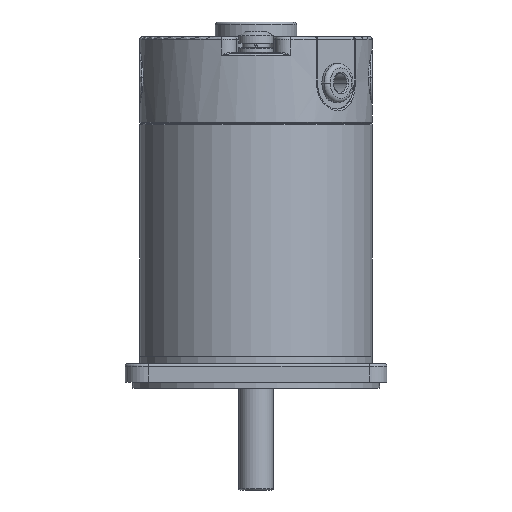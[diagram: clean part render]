
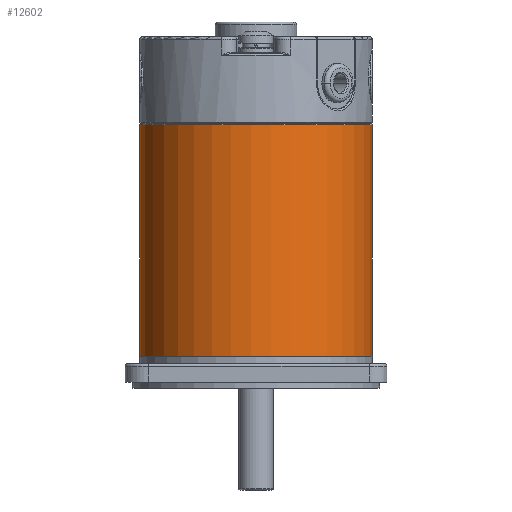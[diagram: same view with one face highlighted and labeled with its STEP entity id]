
A CAD part, left-side view. The second image highlights one B-rep face of the part: STEP entity #12602.
In plain terms, the highlighted cylindrical face has radius 40 mm (diameter 80 mm), a partial arc.
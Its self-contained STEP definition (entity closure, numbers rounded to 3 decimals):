
#2 = CARTESIAN_POINT ( 'NONE',  ( 0., 80., -40. ) ) ;
#185 = VERTEX_POINT ( 'NONE', #8980 ) ;
#459 = CARTESIAN_POINT ( 'NONE',  ( 0., 0., -40. ) ) ;
#631 = CARTESIAN_POINT ( 'NONE',  ( 0., 0.3, -40. ) ) ;
#710 = EDGE_LOOP ( 'NONE', ( #9061, #799, #4292, #3163, #8790 ) ) ;
#799 = ORIENTED_EDGE ( 'NONE', *, *, #3795, .T. ) ;
#1604 = DIRECTION ( 'NONE',  ( 0., 0., 1. ) ) ;
#1676 = CARTESIAN_POINT ( 'NONE',  ( 0., 0., 0. ) ) ;
#1763 = CARTESIAN_POINT ( 'NONE',  ( 0., 0.3, 0. ) ) ;
#1797 = DIRECTION ( 'NONE',  ( 0., 1., 0. ) ) ;
#1891 = AXIS2_PLACEMENT_3D ( 'NONE', #11796, #4557, #9640 ) ;
#2105 = EDGE_CURVE ( 'NONE', #12702, #4097, #8693, .T. ) ;
#2594 = EDGE_CURVE ( 'NONE', #12216, #185, #4710, .T. ) ;
#3163 = ORIENTED_EDGE ( 'NONE', *, *, #7484, .T. ) ;
#3598 = AXIS2_PLACEMENT_3D ( 'NONE', #11720, #5849, #7738 ) ;
#3795 = EDGE_CURVE ( 'NONE', #4714, #12702, #12560, .T. ) ;
#3946 = AXIS2_PLACEMENT_3D ( 'NONE', #1676, #1797, #1604 ) ;
#4097 = VERTEX_POINT ( 'NONE', #2 ) ;
#4105 = CARTESIAN_POINT ( 'NONE',  ( 0., 0.3, 40. ) ) ;
#4292 = ORIENTED_EDGE ( 'NONE', *, *, #2105, .T. ) ;
#4355 = AXIS2_PLACEMENT_3D ( 'NONE', #1763, #8764, #11753 ) ;
#4557 = DIRECTION ( 'NONE',  ( 0., -1., 0. ) ) ;
#4710 = LINE ( 'NONE', #11823, #8868 ) ;
#4714 = VERTEX_POINT ( 'NONE', #5253 ) ;
#5253 = CARTESIAN_POINT ( 'NONE',  ( 40., 0.3, 0. ) ) ;
#5849 = DIRECTION ( 'NONE',  ( 0., 1., 0. ) ) ;
#5890 = EDGE_CURVE ( 'NONE', #12216, #4714, #10410, .T. ) ;
#6773 = VECTOR ( 'NONE', #7457, 1000. ) ;
#7457 = DIRECTION ( 'NONE',  ( 0., 1., 0. ) ) ;
#7484 = EDGE_CURVE ( 'NONE', #4097, #185, #12101, .T. ) ;
#7738 = DIRECTION ( 'NONE',  ( 0., 0., 1. ) ) ;
#8693 = LINE ( 'NONE', #459, #6773 ) ;
#8764 = DIRECTION ( 'NONE',  ( 0., 1., 0. ) ) ;
#8790 = ORIENTED_EDGE ( 'NONE', *, *, #2594, .F. ) ;
#8868 = VECTOR ( 'NONE', #12676, 1000. ) ;
#8980 = CARTESIAN_POINT ( 'NONE',  ( 0., 80., 40. ) ) ;
#9061 = ORIENTED_EDGE ( 'NONE', *, *, #5890, .T. ) ;
#9638 = CYLINDRICAL_SURFACE ( 'NONE', #3946, 40. ) ;
#9640 = DIRECTION ( 'NONE',  ( 0., 0., 1. ) ) ;
#10410 = CIRCLE ( 'NONE', #4355, 40. ) ;
#10816 = FACE_OUTER_BOUND ( 'NONE', #710, .T. ) ;
#11720 = CARTESIAN_POINT ( 'NONE',  ( 0., 0.3, 0. ) ) ;
#11753 = DIRECTION ( 'NONE',  ( 0., 0., 1. ) ) ;
#11796 = CARTESIAN_POINT ( 'NONE',  ( 0., 80., 0. ) ) ;
#11823 = CARTESIAN_POINT ( 'NONE',  ( 0., 0., 40. ) ) ;
#12101 = CIRCLE ( 'NONE', #1891, 40. ) ;
#12216 = VERTEX_POINT ( 'NONE', #4105 ) ;
#12560 = CIRCLE ( 'NONE', #3598, 40. ) ;
#12602 = ADVANCED_FACE ( 'NONE', ( #10816 ), #9638, .T. ) ;
#12676 = DIRECTION ( 'NONE',  ( 0., 1., 0. ) ) ;
#12702 = VERTEX_POINT ( 'NONE', #631 ) ;
